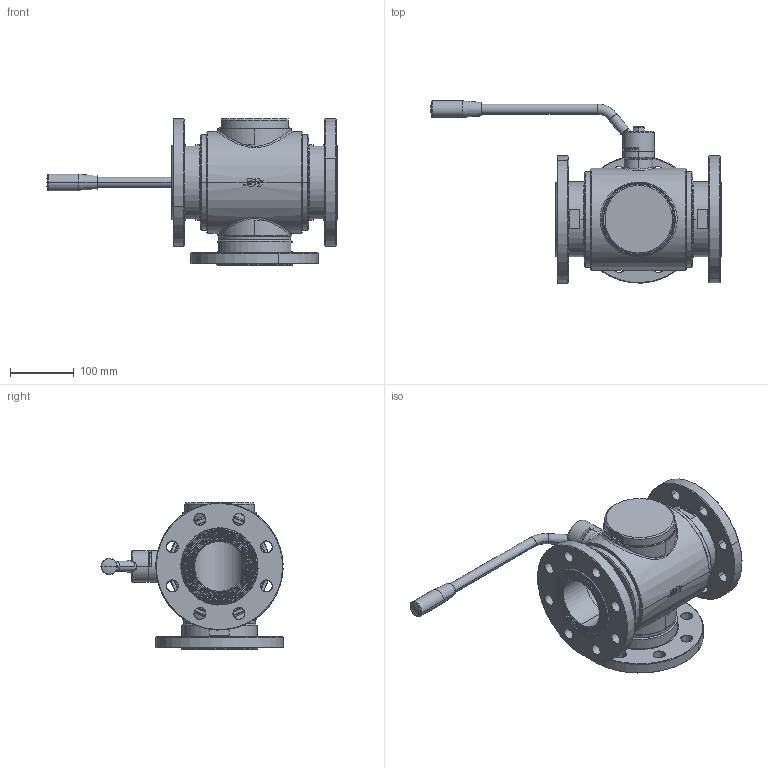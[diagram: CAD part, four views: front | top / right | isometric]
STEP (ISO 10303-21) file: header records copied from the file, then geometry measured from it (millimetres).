
FILE_DESCRIPTION((''),'2;1');
FILE_NAME('PARTE_VUOTA','2021-12-10T11:39:33',('alfio.taboni'),('CDM Tecnoconsulting'),'CREO PARAMETRIC BY PTC INC, 2020053','CREO PARAMETRIC BY PTC INC, 2020053','');
FILE_SCHEMA(('CONFIG_CONTROL_DESIGN','SHAPE_APPEARANCE_LAYERS_GROUPS'));
Products named in the file (1): PARTE_VUOTA
Bounding box: 456.5 x 285.9 x 230 mm (x, y, z)
Volume: 4338173.1 mm3; surface area: 610217.9 mm2
Topology: 1 solids, 20 shells, 1205 faces, 3019 edges, 1893 vertices
Faces by surface type: plane 367, cylinder 321, cone 293, torus 102, bspline 59, extrusion 55, sphere 8
Entity records: 59394 total; most frequent: CARTESIAN_POINT 21539, ORIENTED_EDGE 5998, DIRECTION 5964, PRESENTATION_STYLE_ASSIGNMENT 3003, STYLED_ITEM 3003, CURVE_STYLE 3001, EDGE_CURVE 3001, AXIS2_PLACEMENT_3D 2328
